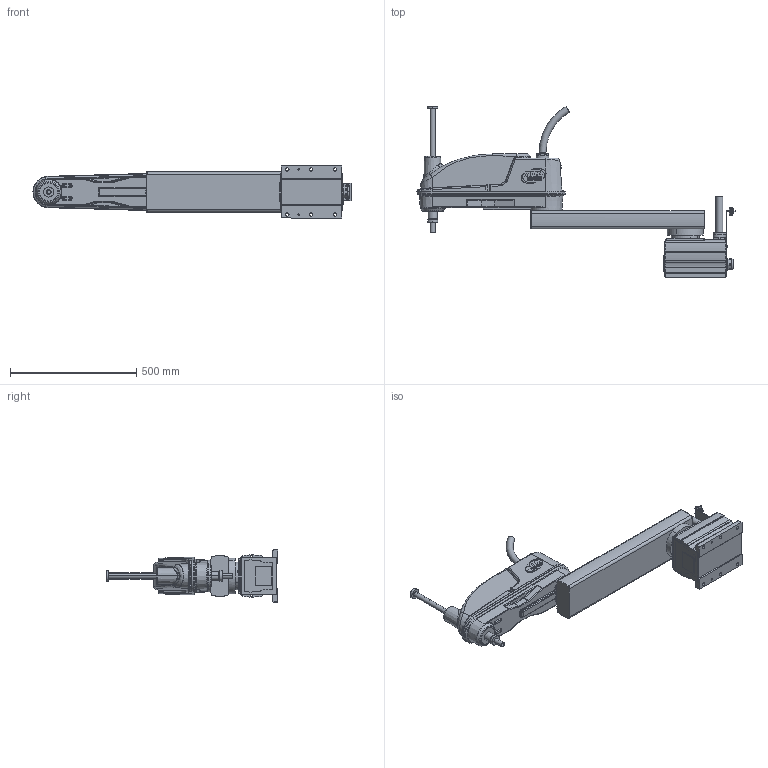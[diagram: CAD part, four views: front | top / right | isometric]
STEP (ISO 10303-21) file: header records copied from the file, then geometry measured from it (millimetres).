
FILE_DESCRIPTION((''),'2;1');
FILE_NAME('THL1000_3D_ASM','2024-06-21T15:26:33',('15575'),(''),'CREO PARAMETRIC BY PTC INC, 2020454','CREO PARAMETRIC BY PTC INC, 2020454','');
FILE_SCHEMA(('AUTOMOTIVE_DESIGN { 1 0 10303 214 1 1 1 1 }'));
Products named in the file (5): THL8910_BASE; THL1000_1ST_ARM; THL1000_2ND_ARM; THL1000_BALL_SCREW; THL1000_3D_ASM
Assembly tree (4 placements, depth 2):
  THL1000_3D_ASM
    THL8910_BASE
    THL1000_1ST_ARM
    THL1000_2ND_ARM
    THL1000_BALL_SCREW
Bounding box: 1259.14 x 679 x 206 mm (x, y, z)
Volume: 13689181.9 mm3; surface area: 1689449.7 mm2
Topology: 4 solids, 13 shells, 1475 faces, 3555 edges, 2212 vertices
Faces by surface type: cylinder 546, plane 542, bspline 202, torus 90, cone 63, extrusion 22, sphere 8, revolution 2
Entity records: 66430 total; most frequent: CARTESIAN_POINT 24888, ORIENTED_EDGE 7102, DIRECTION 6682, EDGE_CURVE 3551, AXIS2_PLACEMENT_3D 2517, VERTEX_POINT 2212, VECTOR 1646, EDGE_LOOP 1627
